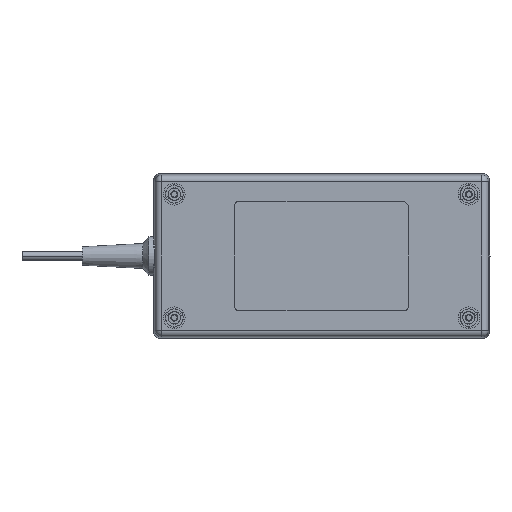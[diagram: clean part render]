
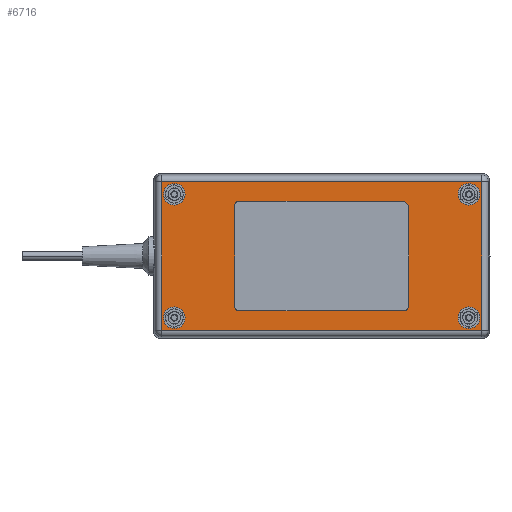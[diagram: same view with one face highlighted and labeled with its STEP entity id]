
A CAD part, front view. The second image highlights one B-rep face of the part: STEP entity #6716.
In plain terms, the highlighted planar face has unit normal (0, -1, 0).
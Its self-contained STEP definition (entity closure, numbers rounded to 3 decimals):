
#1193=DIRECTION('',(1.,0.,0.));
#1194=VECTOR('',#1193,147.739);
#1195=CARTESIAN_POINT('',(-73.87,-14.95,-34.37));
#1196=LINE('',#1195,#1194);
#1197=DIRECTION('',(0.,0.,-1.));
#1198=VECTOR('',#1197,46.6);
#1199=CARTESIAN_POINT('',(-40.15,-14.95,23.3));
#1200=LINE('',#1199,#1198);
#1201=CARTESIAN_POINT('',(-38.15,-14.95,-23.3));
#1202=DIRECTION('',(0.,-1.,0.));
#1203=DIRECTION('',(-1.,0.,0.));
#1204=AXIS2_PLACEMENT_3D('',#1201,#1202,#1203);
#1206=DIRECTION('',(1.,0.,0.));
#1207=VECTOR('',#1206,76.3);
#1208=CARTESIAN_POINT('',(-38.15,-14.95,-25.3));
#1209=LINE('',#1208,#1207);
#1210=CARTESIAN_POINT('',(38.15,-14.95,-23.3));
#1211=DIRECTION('',(0.,-1.,0.));
#1212=DIRECTION('',(0.,0.,-1.));
#1213=AXIS2_PLACEMENT_3D('',#1210,#1211,#1212);
#1215=DIRECTION('',(0.,0.,1.));
#1216=VECTOR('',#1215,46.6);
#1217=CARTESIAN_POINT('',(40.15,-14.95,-23.3));
#1218=LINE('',#1217,#1216);
#1219=DIRECTION('',(-0.707,0.,0.707));
#1220=VECTOR('',#1219,2.828);
#1221=CARTESIAN_POINT('',(40.15,-14.95,23.3));
#1222=LINE('',#1221,#1220);
#1223=DIRECTION('',(-1.,0.,0.));
#1224=VECTOR('',#1223,76.3);
#1225=CARTESIAN_POINT('',(38.15,-14.95,25.3));
#1226=LINE('',#1225,#1224);
#1227=CARTESIAN_POINT('',(-38.15,-14.95,23.3));
#1228=DIRECTION('',(0.,-1.,0.));
#1229=DIRECTION('',(0.,0.,1.));
#1230=AXIS2_PLACEMENT_3D('',#1227,#1228,#1229);
#1232=CARTESIAN_POINT('',(-68.,-14.95,28.5));
#1233=DIRECTION('',(0.,-1.,0.));
#1234=DIRECTION('',(1.,0.,0.));
#1235=AXIS2_PLACEMENT_3D('',#1232,#1233,#1234);
#1237=CARTESIAN_POINT('',(-68.,-14.95,28.5));
#1238=DIRECTION('',(0.,-1.,0.));
#1239=DIRECTION('',(-1.,0.,0.));
#1240=AXIS2_PLACEMENT_3D('',#1237,#1238,#1239);
#1242=CARTESIAN_POINT('',(68.,-14.95,28.5));
#1243=DIRECTION('',(0.,-1.,0.));
#1244=DIRECTION('',(1.,0.,0.));
#1245=AXIS2_PLACEMENT_3D('',#1242,#1243,#1244);
#1247=CARTESIAN_POINT('',(68.,-14.95,28.5));
#1248=DIRECTION('',(0.,-1.,0.));
#1249=DIRECTION('',(-1.,0.,0.));
#1250=AXIS2_PLACEMENT_3D('',#1247,#1248,#1249);
#1252=CARTESIAN_POINT('',(-68.,-14.95,-28.5));
#1253=DIRECTION('',(0.,-1.,0.));
#1254=DIRECTION('',(-1.,0.,0.));
#1255=AXIS2_PLACEMENT_3D('',#1252,#1253,#1254);
#1257=CARTESIAN_POINT('',(-68.,-14.95,-28.5));
#1258=DIRECTION('',(0.,-1.,0.));
#1259=DIRECTION('',(1.,0.,0.));
#1260=AXIS2_PLACEMENT_3D('',#1257,#1258,#1259);
#1262=CARTESIAN_POINT('',(68.,-14.95,-28.5));
#1263=DIRECTION('',(0.,-1.,0.));
#1264=DIRECTION('',(-1.,0.,0.));
#1265=AXIS2_PLACEMENT_3D('',#1262,#1263,#1264);
#1267=CARTESIAN_POINT('',(68.,-14.95,-28.5));
#1268=DIRECTION('',(0.,-1.,0.));
#1269=DIRECTION('',(1.,0.,0.));
#1270=AXIS2_PLACEMENT_3D('',#1267,#1268,#1269);
#1272=DIRECTION('',(-1.,0.,0.));
#1273=VECTOR('',#1272,147.739);
#1274=CARTESIAN_POINT('',(73.87,-14.95,34.37));
#1275=LINE('',#1274,#1273);
#1299=DIRECTION('',(0.,0.,-1.));
#1300=VECTOR('',#1299,68.739);
#1301=CARTESIAN_POINT('',(-73.87,-14.95,34.37));
#1302=LINE('',#1301,#1300);
#1318=DIRECTION('',(0.,0.,1.));
#1319=VECTOR('',#1318,68.739);
#1320=CARTESIAN_POINT('',(73.87,-14.95,-34.37));
#1321=LINE('',#1320,#1319);
#4385=CARTESIAN_POINT('',(-73.87,-14.95,-34.37));
#4386=VERTEX_POINT('',#4385);
#4387=CARTESIAN_POINT('',(73.87,-14.95,-34.37));
#4388=VERTEX_POINT('',#4387);
#4389=CARTESIAN_POINT('',(73.87,-14.95,34.37));
#4390=CARTESIAN_POINT('',(-73.87,-14.95,34.37));
#4391=VERTEX_POINT('',#4389);
#4392=VERTEX_POINT('',#4390);
#4393=CARTESIAN_POINT('',(-40.15,-14.95,23.3));
#4394=CARTESIAN_POINT('',(-40.15,-14.95,-23.3));
#4395=VERTEX_POINT('',#4393);
#4396=VERTEX_POINT('',#4394);
#4397=CARTESIAN_POINT('',(-38.15,-14.95,-25.3));
#4398=VERTEX_POINT('',#4397);
#4399=CARTESIAN_POINT('',(38.15,-14.95,-25.3));
#4400=VERTEX_POINT('',#4399);
#4401=CARTESIAN_POINT('',(40.15,-14.95,-23.3));
#4402=VERTEX_POINT('',#4401);
#4403=CARTESIAN_POINT('',(40.15,-14.95,23.3));
#4404=VERTEX_POINT('',#4403);
#4405=CARTESIAN_POINT('',(38.15,-14.95,25.3));
#4406=VERTEX_POINT('',#4405);
#4407=CARTESIAN_POINT('',(-38.15,-14.95,25.3));
#4408=VERTEX_POINT('',#4407);
#4409=CARTESIAN_POINT('',(-63.,-14.95,28.5));
#4410=CARTESIAN_POINT('',(-73.,-14.95,28.5));
#4411=VERTEX_POINT('',#4409);
#4412=VERTEX_POINT('',#4410);
#4413=CARTESIAN_POINT('',(73.,-14.95,28.5));
#4414=CARTESIAN_POINT('',(63.,-14.95,28.5));
#4415=VERTEX_POINT('',#4413);
#4416=VERTEX_POINT('',#4414);
#4417=CARTESIAN_POINT('',(-73.,-14.95,-28.5));
#4418=CARTESIAN_POINT('',(-63.,-14.95,-28.5));
#4419=VERTEX_POINT('',#4417);
#4420=VERTEX_POINT('',#4418);
#4421=CARTESIAN_POINT('',(63.,-14.95,-28.5));
#4422=CARTESIAN_POINT('',(73.,-14.95,-28.5));
#4423=VERTEX_POINT('',#4421);
#4424=VERTEX_POINT('',#4422);
#6660=CARTESIAN_POINT('',(0.,-14.95,0.));
#6661=DIRECTION('',(0.,1.,0.));
#6662=DIRECTION('',(1.,0.,0.));
#6663=AXIS2_PLACEMENT_3D('',#6660,#6661,#6662);
#6664=PLANE('',#6663);
#6666=ORIENTED_EDGE('',*,*,#6665,.F.);
#6668=ORIENTED_EDGE('',*,*,#6667,.F.);
#6669=ORIENTED_EDGE('',*,*,#6653,.F.);
#6671=ORIENTED_EDGE('',*,*,#6670,.F.);
#6672=EDGE_LOOP('',(#6666,#6668,#6669,#6671));
#6673=FACE_OUTER_BOUND('',#6672,.F.);
#6675=ORIENTED_EDGE('',*,*,#6674,.T.);
#6677=ORIENTED_EDGE('',*,*,#6676,.T.);
#6679=ORIENTED_EDGE('',*,*,#6678,.T.);
#6681=ORIENTED_EDGE('',*,*,#6680,.T.);
#6683=ORIENTED_EDGE('',*,*,#6682,.T.);
#6685=ORIENTED_EDGE('',*,*,#6684,.T.);
#6687=ORIENTED_EDGE('',*,*,#6686,.T.);
#6689=ORIENTED_EDGE('',*,*,#6688,.T.);
#6690=EDGE_LOOP('',(#6675,#6677,#6679,#6681,#6683,#6685,#6687,#6689));
#6691=FACE_BOUND('',#6690,.F.);
#6693=ORIENTED_EDGE('',*,*,#6692,.T.);
#6695=ORIENTED_EDGE('',*,*,#6694,.T.);
#6696=EDGE_LOOP('',(#6693,#6695));
#6697=FACE_BOUND('',#6696,.F.);
#6699=ORIENTED_EDGE('',*,*,#6698,.T.);
#6701=ORIENTED_EDGE('',*,*,#6700,.T.);
#6702=EDGE_LOOP('',(#6699,#6701));
#6703=FACE_BOUND('',#6702,.F.);
#6705=ORIENTED_EDGE('',*,*,#6704,.T.);
#6707=ORIENTED_EDGE('',*,*,#6706,.T.);
#6708=EDGE_LOOP('',(#6705,#6707));
#6709=FACE_BOUND('',#6708,.F.);
#6711=ORIENTED_EDGE('',*,*,#6710,.T.);
#6713=ORIENTED_EDGE('',*,*,#6712,.T.);
#6714=EDGE_LOOP('',(#6711,#6713));
#6715=FACE_BOUND('',#6714,.F.);
#1205=CIRCLE('',#1204,2.);
#1214=CIRCLE('',#1213,2.);
#1231=CIRCLE('',#1230,2.);
#1236=CIRCLE('',#1235,5.);
#1241=CIRCLE('',#1240,5.);
#1246=CIRCLE('',#1245,5.);
#1251=CIRCLE('',#1250,5.);
#1256=CIRCLE('',#1255,5.);
#1261=CIRCLE('',#1260,5.);
#1266=CIRCLE('',#1265,5.);
#1271=CIRCLE('',#1270,5.);
#6653=EDGE_CURVE('',#4386,#4388,#1196,.T.);
#6665=EDGE_CURVE('',#4391,#4392,#1275,.T.);
#6667=EDGE_CURVE('',#4388,#4391,#1321,.T.);
#6670=EDGE_CURVE('',#4392,#4386,#1302,.T.);
#6674=EDGE_CURVE('',#4395,#4396,#1200,.T.);
#6676=EDGE_CURVE('',#4396,#4398,#1205,.T.);
#6678=EDGE_CURVE('',#4398,#4400,#1209,.T.);
#6680=EDGE_CURVE('',#4400,#4402,#1214,.T.);
#6682=EDGE_CURVE('',#4402,#4404,#1218,.T.);
#6684=EDGE_CURVE('',#4404,#4406,#1222,.T.);
#6686=EDGE_CURVE('',#4406,#4408,#1226,.T.);
#6688=EDGE_CURVE('',#4408,#4395,#1231,.T.);
#6692=EDGE_CURVE('',#4411,#4412,#1236,.T.);
#6694=EDGE_CURVE('',#4412,#4411,#1241,.T.);
#6698=EDGE_CURVE('',#4415,#4416,#1246,.T.);
#6700=EDGE_CURVE('',#4416,#4415,#1251,.T.);
#6704=EDGE_CURVE('',#4419,#4420,#1256,.T.);
#6706=EDGE_CURVE('',#4420,#4419,#1261,.T.);
#6710=EDGE_CURVE('',#4423,#4424,#1266,.T.);
#6712=EDGE_CURVE('',#4424,#4423,#1271,.T.);
#6716=ADVANCED_FACE('',(#6673,#6691,#6697,#6703,#6709,#6715),#6664,.F.);
